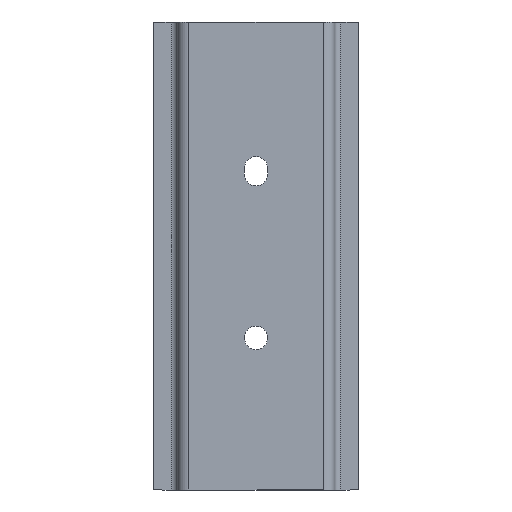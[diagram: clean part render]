
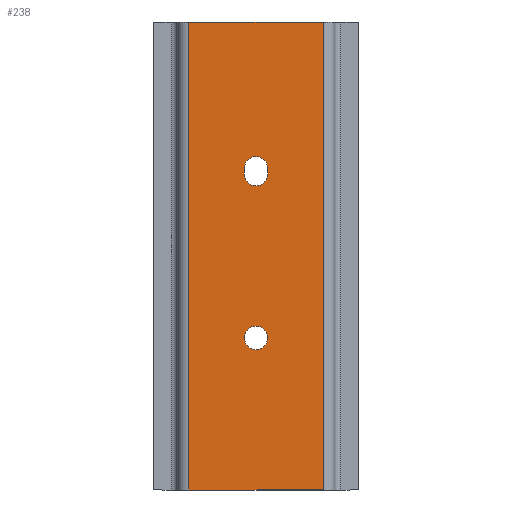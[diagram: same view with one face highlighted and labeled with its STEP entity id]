
A CAD part, front view. The second image highlights one B-rep face of the part: STEP entity #238.
In plain terms, the highlighted planar face has unit normal (0, -1, 0).
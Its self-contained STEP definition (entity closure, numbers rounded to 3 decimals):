
#1 = CARTESIAN_POINT ( 'NONE',  ( -2., 0., 40. ) ) ;
#24 = CARTESIAN_POINT ( 'NONE',  ( 11.5, 0., 40. ) ) ;
#30 = DIRECTION ( 'NONE',  ( 0., 0., -1. ) ) ;
#41 = EDGE_CURVE ( 'NONE', #697, #115, #969, .T. ) ;
#58 = FACE_BOUND ( 'NONE', #545, .T. ) ;
#60 = ORIENTED_EDGE ( 'NONE', *, *, #74, .F. ) ;
#66 = LINE ( 'NONE', #463, #993 ) ;
#74 = EDGE_CURVE ( 'NONE', #435, #435, #103, .T. ) ;
#77 = VERTEX_POINT ( 'NONE', #842 ) ;
#86 = DIRECTION ( 'NONE',  ( 0., 0., -1. ) ) ;
#95 = CIRCLE ( 'NONE', #623, 2. ) ;
#102 = LINE ( 'NONE', #1084, #560 ) ;
#103 = CIRCLE ( 'NONE', #1044, 2. ) ;
#115 = VERTEX_POINT ( 'NONE', #1106 ) ;
#143 = EDGE_CURVE ( 'NONE', #77, #495, #176, .T. ) ;
#155 = CARTESIAN_POINT ( 'NONE',  ( 2., 0., 40. ) ) ;
#157 = VECTOR ( 'NONE', #86, 1000. ) ;
#176 = LINE ( 'NONE', #1102, #860 ) ;
#180 = CARTESIAN_POINT ( 'NONE',  ( -11.5, 0., -40. ) ) ;
#196 = CARTESIAN_POINT ( 'NONE',  ( 0., 0., 15. ) ) ;
#203 = CARTESIAN_POINT ( 'NONE',  ( -2., 0., 14. ) ) ;
#238 = ADVANCED_FACE ( 'NONE', ( #58, #332, #982 ), #874, .T. ) ;
#255 = DIRECTION ( 'NONE',  ( 0., -1., 0. ) ) ;
#286 = DIRECTION ( 'NONE',  ( 0., 0., -1. ) ) ;
#332 = FACE_BOUND ( 'NONE', #442, .T. ) ;
#348 = EDGE_CURVE ( 'NONE', #828, #697, #869, .T. ) ;
#378 = DIRECTION ( 'NONE',  ( -1., 0., 0. ) ) ;
#388 = VERTEX_POINT ( 'NONE', #726 ) ;
#392 = EDGE_CURVE ( 'NONE', #1064, #495, #846, .T. ) ;
#404 = DIRECTION ( 'NONE',  ( 0., -1., 0. ) ) ;
#424 = EDGE_CURVE ( 'NONE', #555, #1064, #102, .T. ) ;
#435 = VERTEX_POINT ( 'NONE', #725 ) ;
#442 = EDGE_LOOP ( 'NONE', ( #60 ) ) ;
#450 = LINE ( 'NONE', #155, #1134 ) ;
#463 = CARTESIAN_POINT ( 'NONE',  ( 11.5, 0., 40. ) ) ;
#495 = VERTEX_POINT ( 'NONE', #1004 ) ;
#509 = ORIENTED_EDGE ( 'NONE', *, *, #392, .T. ) ;
#523 = ORIENTED_EDGE ( 'NONE', *, *, #628, .T. ) ;
#525 = DIRECTION ( 'NONE',  ( 0., 0., -1. ) ) ;
#538 = ORIENTED_EDGE ( 'NONE', *, *, #41, .F. ) ;
#545 = EDGE_LOOP ( 'NONE', ( #538, #1066, #854, #884 ) ) ;
#555 = VERTEX_POINT ( 'NONE', #24 ) ;
#556 = DIRECTION ( 'NONE',  ( 0., 0., 1. ) ) ;
#560 = VECTOR ( 'NONE', #735, 1000. ) ;
#623 = AXIS2_PLACEMENT_3D ( 'NONE', #196, #819, #286 ) ;
#628 = EDGE_CURVE ( 'NONE', #77, #555, #66, .T. ) ;
#651 = EDGE_CURVE ( 'NONE', #388, #828, #95, .T. ) ;
#668 = DIRECTION ( 'NONE',  ( 0., -1., 0. ) ) ;
#683 = CARTESIAN_POINT ( 'NONE',  ( -2., 0., 15. ) ) ;
#690 = AXIS2_PLACEMENT_3D ( 'NONE', #1025, #404, #936 ) ;
#697 = VERTEX_POINT ( 'NONE', #203 ) ;
#725 = CARTESIAN_POINT ( 'NONE',  ( 0., 0., -16. ) ) ;
#726 = CARTESIAN_POINT ( 'NONE',  ( 2., 0., 15. ) ) ;
#734 = ORIENTED_EDGE ( 'NONE', *, *, #424, .T. ) ;
#735 = DIRECTION ( 'NONE',  ( -1., 0., 0. ) ) ;
#753 = CARTESIAN_POINT ( 'NONE',  ( 0., 0., -14. ) ) ;
#781 = AXIS2_PLACEMENT_3D ( 'NONE', #966, #255, #525 ) ;
#812 = DIRECTION ( 'NONE',  ( 0., 0., -1. ) ) ;
#819 = DIRECTION ( 'NONE',  ( 0., -1., 0. ) ) ;
#828 = VERTEX_POINT ( 'NONE', #683 ) ;
#842 = CARTESIAN_POINT ( 'NONE',  ( 11.5, 0., -40. ) ) ;
#846 = LINE ( 'NONE', #180, #1054 ) ;
#854 = ORIENTED_EDGE ( 'NONE', *, *, #651, .F. ) ;
#860 = VECTOR ( 'NONE', #378, 1000. ) ;
#869 = LINE ( 'NONE', #1, #157 ) ;
#874 = PLANE ( 'NONE',  #781 ) ;
#883 = EDGE_LOOP ( 'NONE', ( #734, #509, #1043, #523 ) ) ;
#884 = ORIENTED_EDGE ( 'NONE', *, *, #946, .F. ) ;
#936 = DIRECTION ( 'NONE',  ( 0., 0., -1. ) ) ;
#946 = EDGE_CURVE ( 'NONE', #115, #388, #450, .T. ) ;
#960 = DIRECTION ( 'NONE',  ( 0., 0., 1. ) ) ;
#966 = CARTESIAN_POINT ( 'NONE',  ( 13.5, 0., 40. ) ) ;
#969 = CIRCLE ( 'NONE', #690, 2. ) ;
#970 = CARTESIAN_POINT ( 'NONE',  ( -11.5, 0., 40. ) ) ;
#982 = FACE_OUTER_BOUND ( 'NONE', #883, .T. ) ;
#993 = VECTOR ( 'NONE', #556, 1000. ) ;
#1004 = CARTESIAN_POINT ( 'NONE',  ( -11.5, 0., -40. ) ) ;
#1025 = CARTESIAN_POINT ( 'NONE',  ( 0., 0., 14. ) ) ;
#1043 = ORIENTED_EDGE ( 'NONE', *, *, #143, .F. ) ;
#1044 = AXIS2_PLACEMENT_3D ( 'NONE', #753, #668, #30 ) ;
#1054 = VECTOR ( 'NONE', #812, 1000. ) ;
#1064 = VERTEX_POINT ( 'NONE', #970 ) ;
#1066 = ORIENTED_EDGE ( 'NONE', *, *, #348, .F. ) ;
#1084 = CARTESIAN_POINT ( 'NONE',  ( 13.5, 0., 40. ) ) ;
#1102 = CARTESIAN_POINT ( 'NONE',  ( 13.5, 0., -40. ) ) ;
#1106 = CARTESIAN_POINT ( 'NONE',  ( 2., 0., 14. ) ) ;
#1134 = VECTOR ( 'NONE', #960, 1000. ) ;
